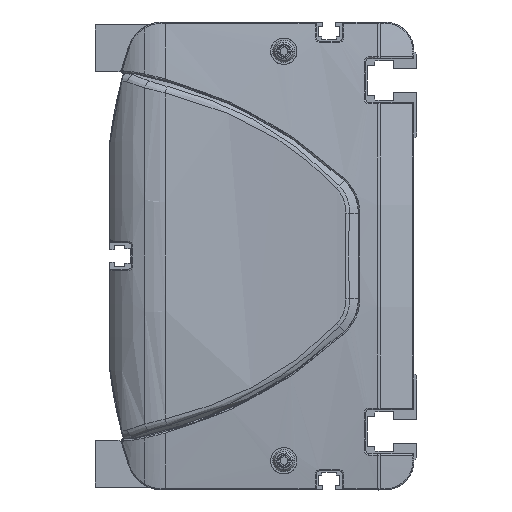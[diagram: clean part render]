
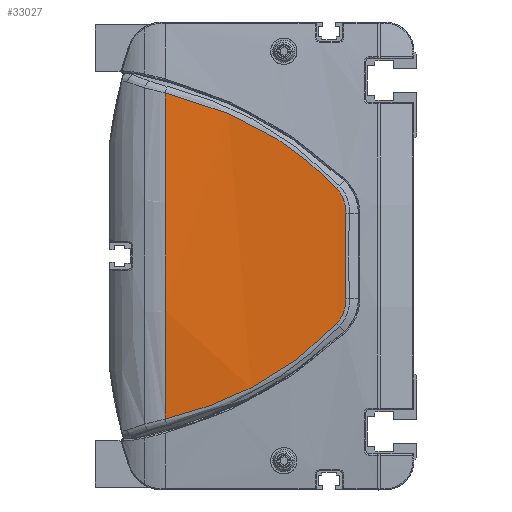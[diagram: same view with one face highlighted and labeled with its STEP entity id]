
A CAD part, left-side view. The second image highlights one B-rep face of the part: STEP entity #33027.
In plain terms, the highlighted cylindrical face has radius 600 mm (diameter 1200 mm), a partial arc.
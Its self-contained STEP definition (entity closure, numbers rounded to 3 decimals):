
#11290=CARTESIAN_POINT('',(-12.406,86.,
55.736));
#11291=CARTESIAN_POINT('',(-12.529,80.495,
54.41));
#11292=CARTESIAN_POINT('',(-12.828,69.636,
51.114));
#11293=CARTESIAN_POINT('',(-13.389,54.079,
44.179));
#11294=CARTESIAN_POINT('',(-14.01,39.709,
34.979));
#11295=CARTESIAN_POINT('',(-14.395,31.353,
27.243));
#11296=CARTESIAN_POINT('',(-14.555,27.451,
23.113));
#11298=CARTESIAN_POINT('',(-14.555,27.451,
23.113));
#11299=CARTESIAN_POINT('',(-14.641,25.336,
20.875));
#11300=CARTESIAN_POINT('',(-14.745,24.202,
17.745));
#11301=CARTESIAN_POINT('',(-14.821,24.351,
14.67));
#11303=CARTESIAN_POINT('',(-14.821,24.351,
14.67));
#11304=CARTESIAN_POINT('',(-14.9,24.51,
11.413));
#11305=CARTESIAN_POINT('',(-15.007,24.721,
4.895));
#11306=CARTESIAN_POINT('',(-15.007,24.721,
-4.895));
#11307=CARTESIAN_POINT('',(-14.9,24.51,
-11.413));
#11308=CARTESIAN_POINT('',(-14.821,24.351,
-14.67));
#11310=CARTESIAN_POINT('',(-14.821,24.351,
-14.67));
#11311=CARTESIAN_POINT('',(-14.745,24.202,
-17.745));
#11312=CARTESIAN_POINT('',(-14.641,25.337,
-20.876));
#11313=CARTESIAN_POINT('',(-14.555,27.451,
-23.113));
#11315=CARTESIAN_POINT('',(-14.555,27.451,
-23.113));
#11316=CARTESIAN_POINT('',(-14.395,31.353,
-27.243));
#11317=CARTESIAN_POINT('',(-14.01,39.709,
-34.979));
#11318=CARTESIAN_POINT('',(-13.389,54.079,
-44.179));
#11319=CARTESIAN_POINT('',(-12.828,69.636,
-51.114));
#11320=CARTESIAN_POINT('',(-12.529,80.495,
-54.41));
#11321=CARTESIAN_POINT('',(-12.406,86.,
-55.736));
#11323=CARTESIAN_POINT('',(585.,86.,0.));
#11324=DIRECTION('',(0.,1.,0.));
#11325=DIRECTION('',(-0.996,0.,-0.093));
#11326=AXIS2_PLACEMENT_3D('',#11323,#11324,#11325);
#11339=CARTESIAN_POINT('',(-12.406,86.,
55.736));
#14381=VERTEX_POINT('',#11339);
#14382=CARTESIAN_POINT('',(-12.406,86.,
-55.736));
#14383=VERTEX_POINT('',#14382);
#14433=VERTEX_POINT('',#11296);
#14434=VERTEX_POINT('',#11301);
#14435=VERTEX_POINT('',#11308);
#14436=VERTEX_POINT('',#11313);
#33009=CARTESIAN_POINT('',(585.,87.45,0.));
#33010=DIRECTION('',(0.,-1.,0.));
#33011=DIRECTION('',(0.,0.,-1.));
#33012=AXIS2_PLACEMENT_3D('',#33009,#33010,#33011);
#33013=CYLINDRICAL_SURFACE('',#33012,600.);
#33015=ORIENTED_EDGE('',*,*,#33014,.T.);
#33017=ORIENTED_EDGE('',*,*,#33016,.T.);
#33018=ORIENTED_EDGE('',*,*,#32999,.T.);
#33020=ORIENTED_EDGE('',*,*,#33019,.T.);
#33022=ORIENTED_EDGE('',*,*,#33021,.T.);
#33024=ORIENTED_EDGE('',*,*,#33023,.T.);
#33025=EDGE_LOOP('',(#33015,#33017,#33018,#33020,#33022,#33024));
#33026=FACE_OUTER_BOUND('',#33025,.F.);
#33027=ADVANCED_FACE('',(#33026),#33013,.T.);
#11297=B_SPLINE_CURVE_WITH_KNOTS('',3,(#11290,#11291,#11292,#11293,#11294,
#11295,#11296),.UNSPECIFIED.,.F.,.F.,(4,1,1,1,4),(0.,0.25,0.5,0.75,
1.),.UNSPECIFIED.);
#11302=B_SPLINE_CURVE_WITH_KNOTS('',3,(#11298,#11299,#11300,#11301),
.UNSPECIFIED.,.F.,.F.,(4,4),(0.,1.),.UNSPECIFIED.);
#11309=B_SPLINE_CURVE_WITH_KNOTS('',3,(#11303,#11304,#11305,#11306,#11307,
#11308),.UNSPECIFIED.,.F.,.F.,(4,1,1,4),(0.,0.333,
0.667,1.),.UNSPECIFIED.);
#11314=B_SPLINE_CURVE_WITH_KNOTS('',3,(#11310,#11311,#11312,#11313),
.UNSPECIFIED.,.F.,.F.,(4,4),(0.,1.),.UNSPECIFIED.);
#11322=B_SPLINE_CURVE_WITH_KNOTS('',3,(#11315,#11316,#11317,#11318,#11319,
#11320,#11321),.UNSPECIFIED.,.F.,.F.,(4,1,1,1,4),(0.,0.25,0.5,0.75,
1.),.UNSPECIFIED.);
#11327=CIRCLE('',#11326,600.);
#32999=EDGE_CURVE('',#14434,#14435,#11309,.T.);
#33014=EDGE_CURVE('',#14381,#14433,#11297,.T.);
#33016=EDGE_CURVE('',#14433,#14434,#11302,.T.);
#33019=EDGE_CURVE('',#14435,#14436,#11314,.T.);
#33021=EDGE_CURVE('',#14436,#14383,#11322,.T.);
#33023=EDGE_CURVE('',#14383,#14381,#11327,.T.);
